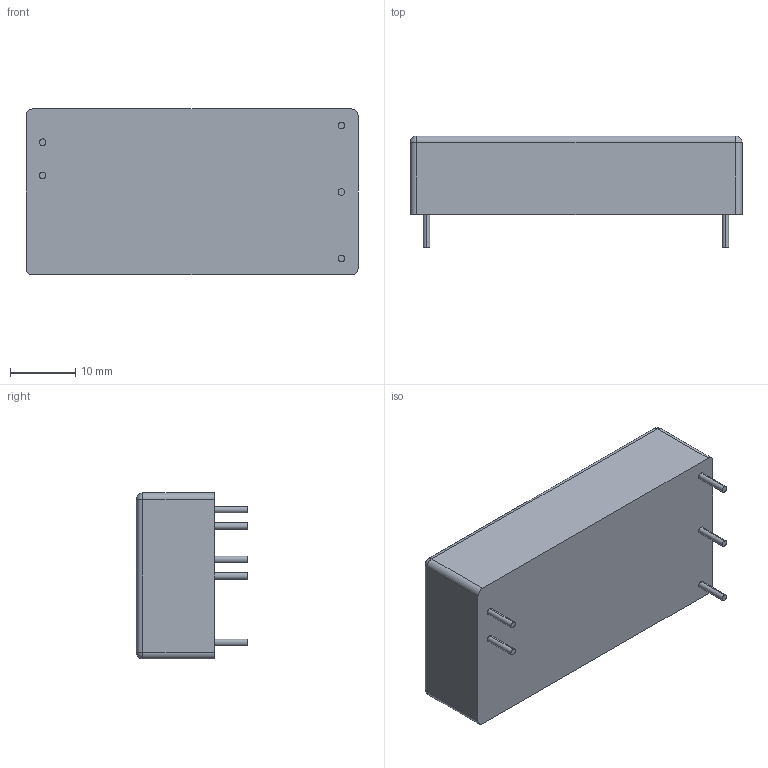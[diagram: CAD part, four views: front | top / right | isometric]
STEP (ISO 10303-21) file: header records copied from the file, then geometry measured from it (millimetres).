
FILE_DESCRIPTION (( 'STEP AP203' ), '1' );
FILE_NAME ('THB 10 Dual Output.STEP', '2020-11-13T06:59:40', ( '' ), ( '' ), 'SwSTEP 2.0', 'SolidWorks 2020', '' );
FILE_SCHEMA (( 'CONFIG_CONTROL_DESIGN' ));
Length unit declared in the file: millimetre
Products named in the file (1): THB 10 Dual Output
Bounding box: 50.8 x 17.08 x 25.4 mm (x, y, z)
Volume: 15461.5 mm3; surface area: 4401.8 mm2
Topology: 1 solids, 1 shells, 33 faces, 70 edges, 40 vertices
Faces by surface type: cylinder 18, plane 11, sphere 4
Entity records: 937 total; most frequent: DIRECTION 170, CARTESIAN_POINT 140, ORIENTED_EDGE 132, AXIS2_PLACEMENT_3D 70, EDGE_CURVE 66, VERTEX_POINT 40, EDGE_LOOP 38, CIRCLE 36
